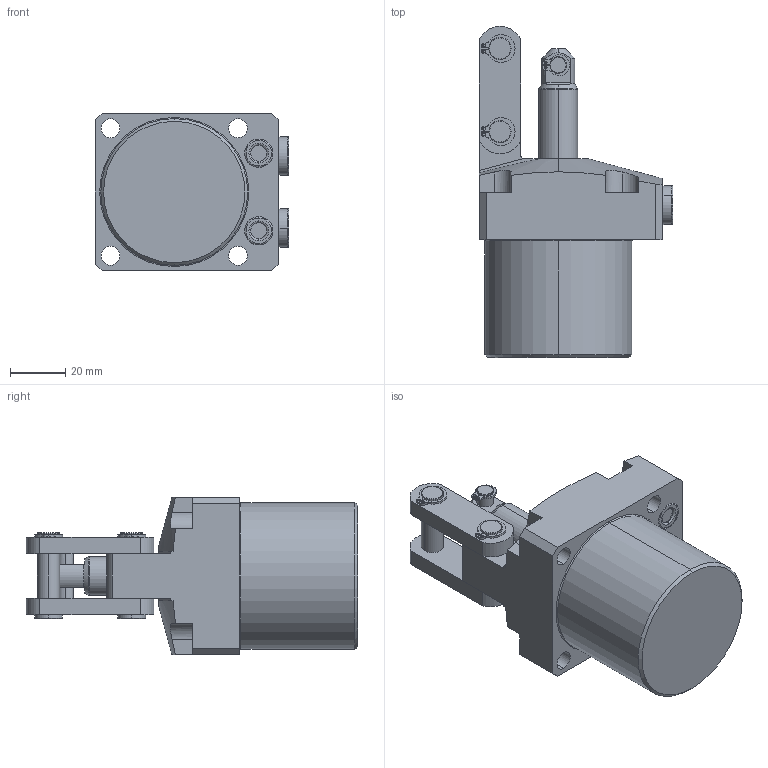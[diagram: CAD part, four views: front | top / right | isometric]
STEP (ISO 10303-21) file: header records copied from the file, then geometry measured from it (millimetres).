
FILE_DESCRIPTION(/* description */ (''),/* implementation_level */ '2;1');
FILE_NAME(/* name */ 'TPC06-F.stp',/* time_stamp */ '2025-01-05T10:31:17+08:00',/* author */ (''),/* organization */ (''),/* preprocessor_version */ 'ST-DEVELOPER v16.7',/* originating_system */ 'SIEMENS PLM Software NX 12.0',/* authorisation */ '');
FILE_SCHEMA (('AUTOMOTIVE_DESIGN { 1 0 10303 214 3 1 1 1 }'));
Length unit declared in the file: millimetre
Products named in the file (5): TPC06-F-01; TPC06-F-02; TPC06-F-03; TPC06-F-04; TPC06-F_stp
Assembly tree (5 placements, depth 2):
  TPC06-F_stp
    TPC06-F-04  x2
    TPC06-F-03
    TPC06-F-02
    TPC06-F-01
Bounding box: 69.8 x 119.5 x 57 mm (x, y, z)
Volume: 200558.8 mm3; surface area: 33717.3 mm2
Topology: 5 solids, 7 shells, 282 faces, 667 edges, 424 vertices
Faces by surface type: cylinder 116, plane 111, torus 34, cone 21
Entity records: 7868 total; most frequent: CARTESIAN_POINT 1474, DIRECTION 1411, ORIENTED_EDGE 1242, EDGE_CURVE 621, AXIS2_PLACEMENT_3D 562, VERTEX_POINT 396, EDGE_LOOP 303, CIRCLE 296
